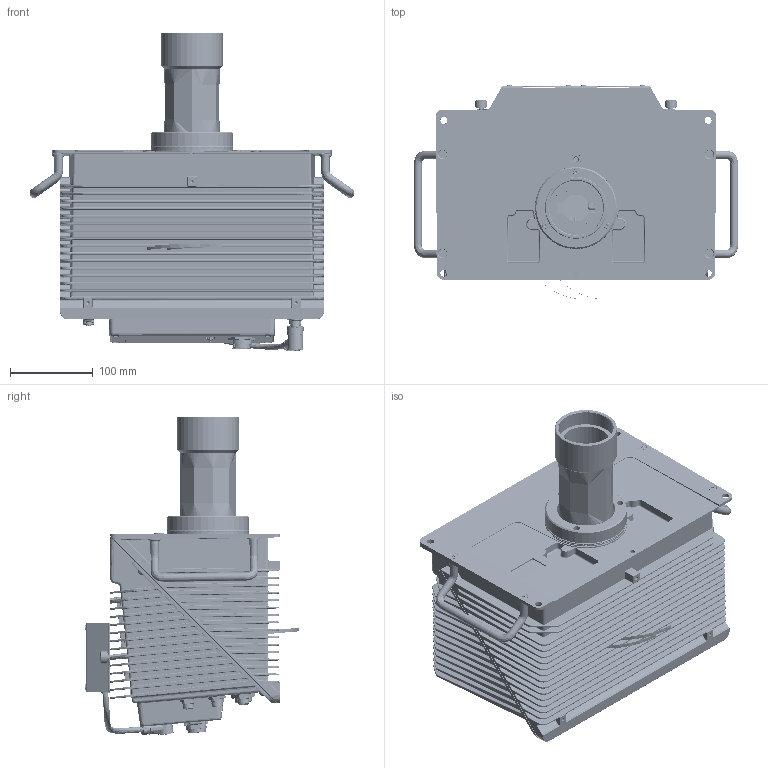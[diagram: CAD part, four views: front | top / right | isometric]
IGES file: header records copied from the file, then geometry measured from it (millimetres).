
Start section: SolidWorks IGES file using analytic representation for surfaces
Global section: file name: K:\sw\LRCamera\exports\LRC Head Assembly with 140mm lens- shell.IGS; native system: SolidWorks 2015; preprocessor: SolidWorks 2015; author: tbrobst; date: 160120.145531; units: millimetre
Bounding box: 393 x 259.92 x 385.41 mm (x, y, z)
Surface area: 1468932 mm2 (no closed solid volume)
Topology: 0 solids, 0 shells, 11639 faces, 117226 edges, 116719 vertices
Faces by surface type: bspline 6485, revolution 5154
